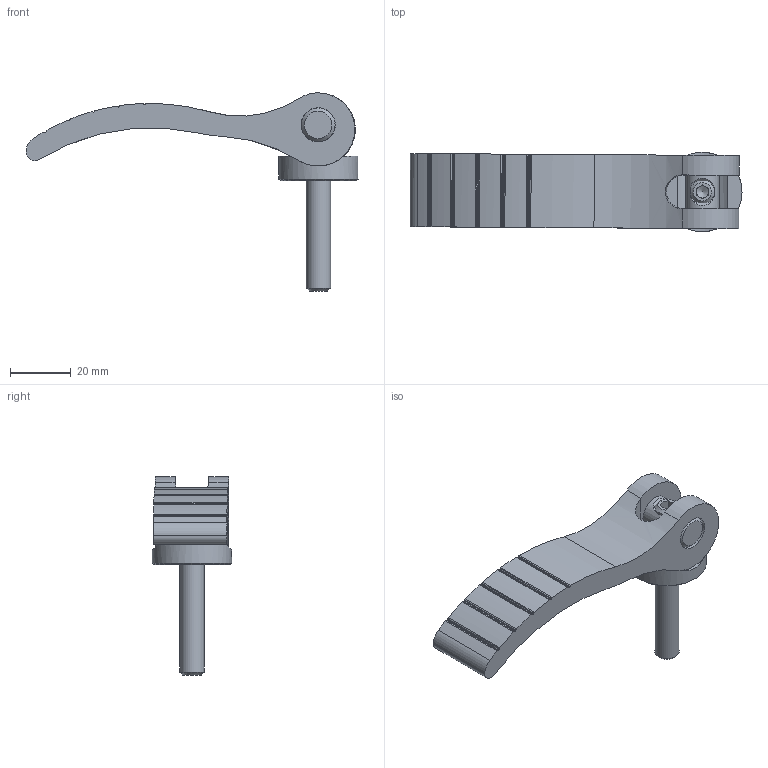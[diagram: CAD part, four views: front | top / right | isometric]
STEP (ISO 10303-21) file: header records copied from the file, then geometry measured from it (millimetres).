
FILE_DESCRIPTION(('STEP AP203'), '1');
FILE_NAME('À00360.111080825 _ Ýêñöåíòðèê 108 ìì', '', ('UNSPECIFIED'), ('UNSPECIFIED'), 'C3D Converter', 'C3D Toolkit', '');
FILE_SCHEMA(('CONFIG_CONTROL_DESIGN'));
Length unit declared in the file: millimetre
Products named in the file (5): А00360.108.03; А00360.108.02; А00360.108.01
Assembly tree (4 placements, depth 2):
  (unnamed)
    А00360.108.03
    А00360.108.02
    А00360.108.01
    (unnamed)
Bounding box: 108.87 x 26 x 64.97 mm (x, y, z)
Volume: 29043.9 mm3; surface area: 12938 mm2
Topology: 4 solids, 4 shells, 79 faces, 203 edges, 132 vertices
Faces by surface type: cylinder 38, plane 33, cone 6, bspline 2
Full cylindrical faces by diameter (mm): 6.647 x1, 8 x1, 10.5 x1, 11 x1, 11.2 x2, 26 x1
Entity records: 4439 total; most frequent: CARTESIAN_POINT 2270, DIRECTION 424, ORIENTED_EDGE 370, EDGE_CURVE 185, AXIS2_PLACEMENT_3D 168, VERTEX_POINT 129, EDGE_LOOP 102, LINE 88
